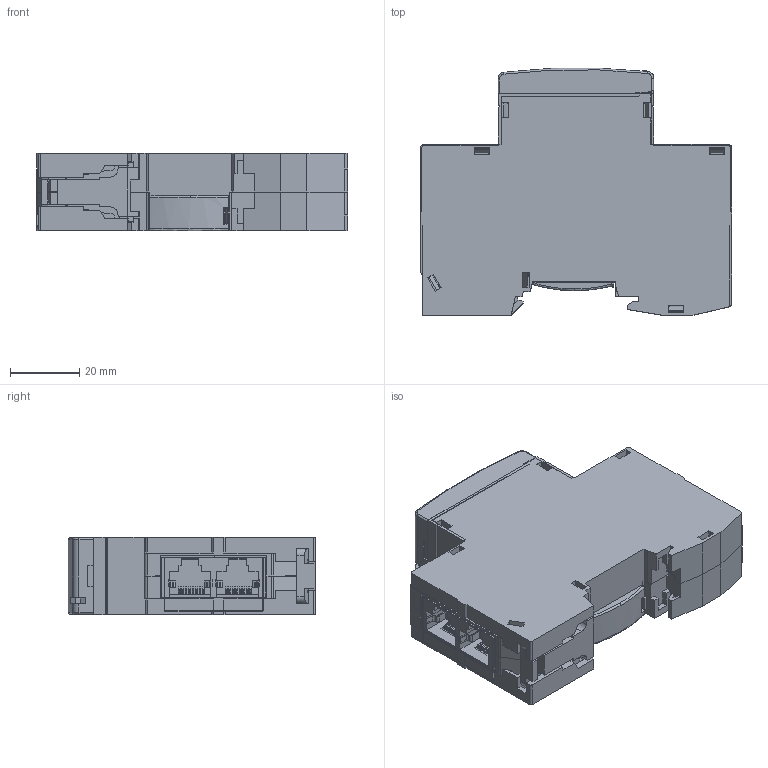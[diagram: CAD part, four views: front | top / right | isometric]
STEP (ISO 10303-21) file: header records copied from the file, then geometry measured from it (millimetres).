
FILE_DESCRIPTION (( 'STEP AP203' ), '1' );
FILE_NAME ('DF-TTP.STEP', '2021-07-07T07:49:44', ( '' ), ( '' ), 'SwSTEP 2.0', 'SolidWorks 2018', '' );
FILE_SCHEMA (( 'CONFIG_CONTROL_DESIGN' ));
Length unit declared in the file: millimetre
Products named in the file (13): 8LD.005.0084.STEP.STEP; 8LD.321.1002.STEP.STEP; 8LD.253.283.STEP.STEP; CNT-OQxx12x0xxxxG______.STEP; 8LD.300.1296.STEP.STEP; 8LD.005.0086.STEP.STEP; DF-TTP.STEP; 8LD.143.1054.STEP.STEP; DF-TTP; 8LD.322.1029.STEP.STEP; dinkle_ech350r-02p.STEP.STEP; 5LD.421.0009__DF-TTP__.STEP.STEP; 邧厙諳傷赽
Assembly tree (17 placements, depth 4):
  DF-TTP
    DF-TTP.STEP
      5LD.421.0009__DF-TTP__.STEP.STEP
        8LD.005.0086.STEP.STEP
        8LD.005.0084.STEP.STEP
        8LD.321.1002.STEP.STEP  x4
        8LD.300.1296.STEP.STEP
        8LD.322.1029.STEP.STEP
        8LD.143.1054.STEP.STEP
        8LD.253.283.STEP.STEP  x3
        dinkle_ech350r-02p.STEP.STEP
      CNT-OQxx12x0xxxxG______.STEP
    邧厙諳傷赽
Bounding box: 90.05 x 71.59 x 22.5 mm (x, y, z)
Volume: 33640.6 mm3; surface area: 51527.6 mm2
Topology: 19 solids, 19 shells, 2353 faces, 6469 edges, 4180 vertices
Faces by surface type: plane 1911, cylinder 342, torus 50, cone 27, bspline 23
Entity records: 72539 total; most frequent: CARTESIAN_POINT 13519, ORIENTED_EDGE 12414, DIRECTION 11245, EDGE_CURVE 6207, LINE 5315, VECTOR 5315, VERTEX_POINT 4008, AXIS2_PLACEMENT_3D 2965
